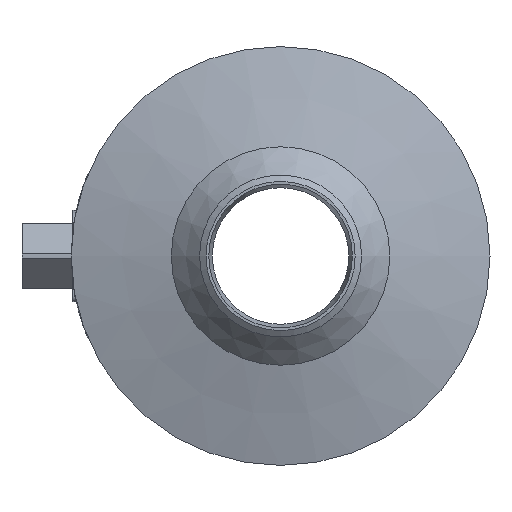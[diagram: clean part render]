
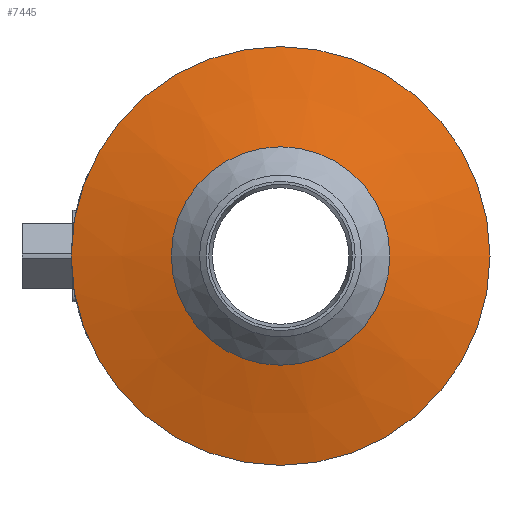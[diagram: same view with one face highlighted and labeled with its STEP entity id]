
A CAD part, left-side view. The second image highlights one B-rep face of the part: STEP entity #7445.
In plain terms, the highlighted conical face has half-angle 75 degrees and reference radius 87.5 mm.
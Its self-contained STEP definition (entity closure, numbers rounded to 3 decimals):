
#7411=CARTESIAN_POINT('',(-50.737,-60.0,0.0));
#7412=VERTEX_POINT('',#7411);
#7413=CARTESIAN_POINT('',(-50.737,0.0,0.0));
#7414=DIRECTION('',(1.0,0.0,0.0));
#7415=DIRECTION('',(0.0,-1.0,0.0));
#7416=AXIS2_PLACEMENT_3D('',#7413,#7414,#7415);
#7417=CIRCLE('',#7416,60.0);
#7418=EDGE_CURVE('',#7412,#7412,#7417,.T.);
#7426=CARTESIAN_POINT('',(-43.369,0.0,0.0));
#7427=DIRECTION('',(1.0,0.0,0.0));
#7428=DIRECTION('',(0.0,-1.0,0.0));
#7429=AXIS2_PLACEMENT_3D('',#7426,#7427,#7428);
#7430=CONICAL_SURFACE('',#7429,87.5,75.);
#7431=CARTESIAN_POINT('',(-36.0,-115.0,0.0));
#7432=VERTEX_POINT('',#7431);
#7433=CARTESIAN_POINT('',(-36.0,0.0,0.0));
#7434=DIRECTION('',(1.0,0.0,0.0));
#7435=DIRECTION('',(0.0,-1.0,0.0));
#7436=AXIS2_PLACEMENT_3D('',#7433,#7434,#7435);
#7437=CIRCLE('',#7436,115.0);
#7438=EDGE_CURVE('',#7432,#7432,#7437,.T.);
#7439=ORIENTED_EDGE('',*,*,#7438,.F.);
#7440=EDGE_LOOP('',(#7439));
#7441=FACE_OUTER_BOUND('',#7440,.T.);
#7442=ORIENTED_EDGE('',*,*,#7418,.T.);
#7443=EDGE_LOOP('',(#7442));
#7444=FACE_BOUND('',#7443,.T.);
#7445=ADVANCED_FACE('',(#7441,#7444),#7430,.T.);
